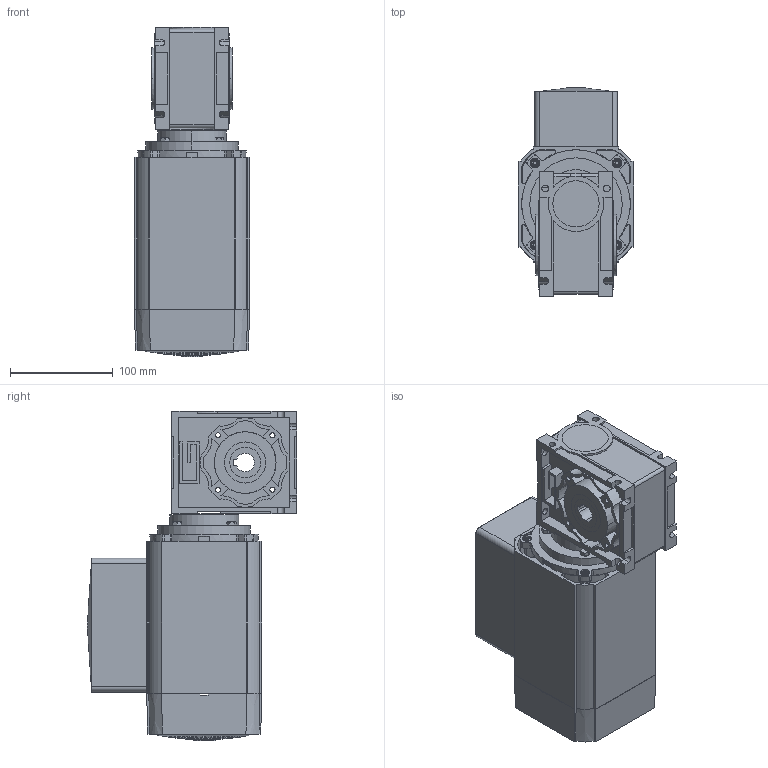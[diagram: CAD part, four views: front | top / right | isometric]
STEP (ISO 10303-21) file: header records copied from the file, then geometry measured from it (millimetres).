
FILE_DESCRIPTION (( 'STEP AP203' ), '1' );
FILE_NAME ('AC10060FC-RA4000T.STEP', '2008-06-30T20:46:27', ( 'eng-rjs' ), ( 'groschopp' ), 'SwSTEP 2.0', 'SolidWorks 2008', '' );
FILE_SCHEMA (( 'CONFIG_CONTROL_DESIGN' ));
Products named in the file (1): AC10060FC-RA4000T
Bounding box: 112.27 x 203.67 x 321.04 mm (x, y, z)
Surface area: 350085.8 mm2 (no closed solid volume)
Topology: 0 solids, 50 shells, 1198 faces, 3962 edges, 2729 vertices
Faces by surface type: plane 732, cylinder 323, cone 57, bspline 39, torus 37, sphere 10
Entity records: 45720 total; most frequent: CARTESIAN_POINT 11086, DIRECTION 7605, ORIENTED_EDGE 6532, EDGE_CURVE 3962, AXIS2_PLACEMENT_3D 2902, VERTEX_POINT 2729, VECTOR 1801, LINE 1801
